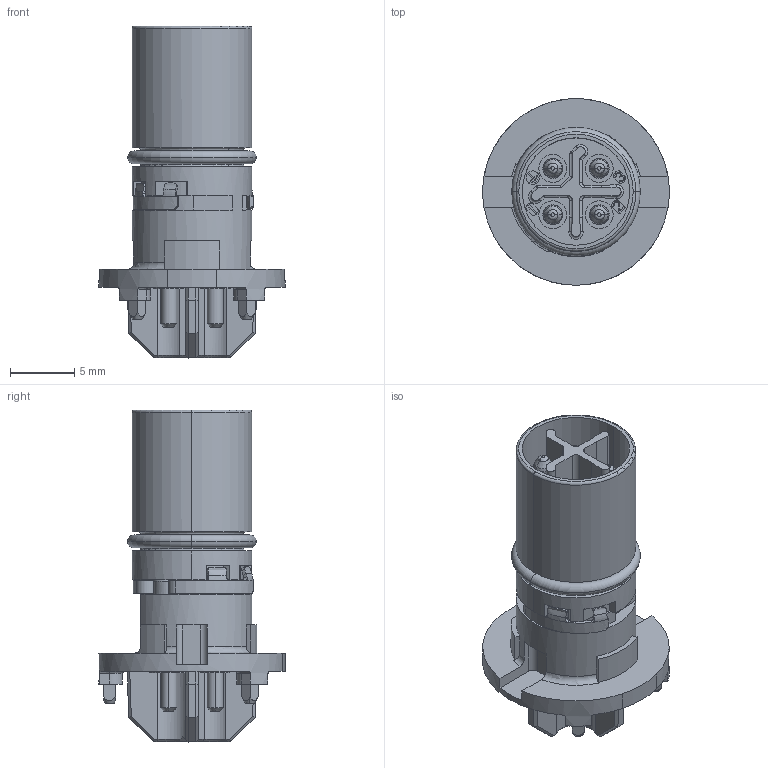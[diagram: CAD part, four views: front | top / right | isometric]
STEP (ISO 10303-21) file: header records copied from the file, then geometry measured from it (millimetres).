
FILE_DESCRIPTION((''),'2;1');
FILE_NAME('M12S-04PMMP-EE0001_SW0001','2022-03-16T',('L180079'),(''),'PRO/ENGINEER BY PARAMETRIC TECHNOLOGY CORPORATION, 2017170','PRO/ENGINEER BY PARAMETRIC TECHNOLOGY CORPORATION, 2017170','');
FILE_SCHEMA(('CONFIG_CONTROL_DESIGN'));
Length unit declared in the file: millimetre
Products named in the file (1): M12S-04PMMP-EE0001_SW0001
Bounding box: 14.49 x 14.49 x 25.8 mm (x, y, z)
Volume: 1245.4 mm3; surface area: 2123.7 mm2
Topology: 2 solids, 2 shells, 611 faces, 1587 edges, 1016 vertices
Faces by surface type: plane 334, cylinder 177, cone 40, bspline 38, torus 22
Entity records: 21390 total; most frequent: CARTESIAN_POINT 5218, ORIENTED_EDGE 3174, DIRECTION 3113, EDGE_CURVE 1587, AXIS2_PLACEMENT_3D 1082, VERTEX_POINT 1016, VECTOR 949, LINE 949
